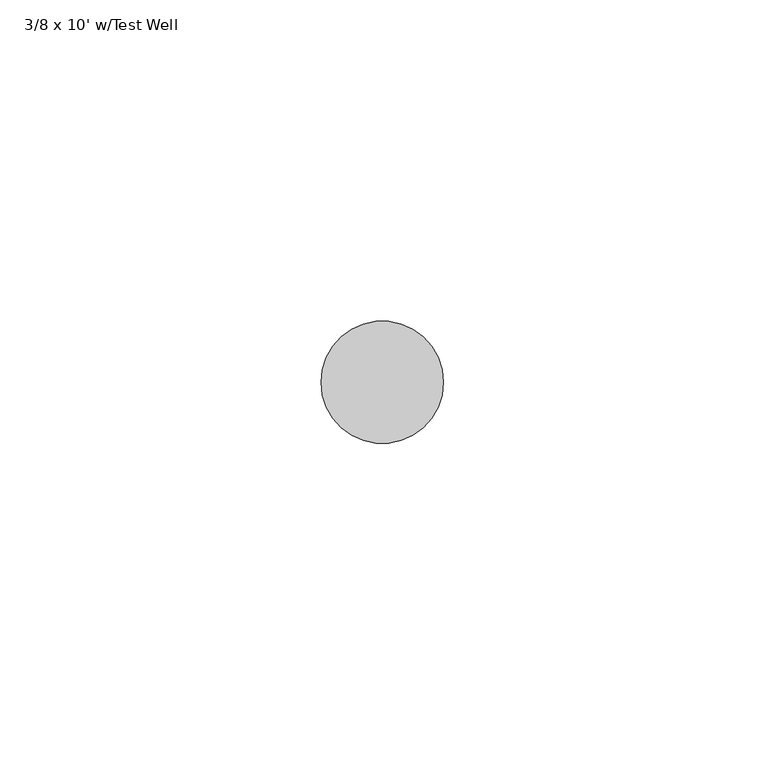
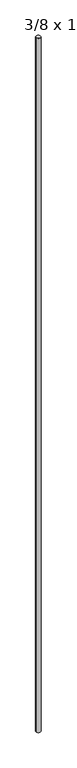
"""IFC4 building model written with IfcOpenShell, lengths in millimetres: proxy geometry, OMAHA - GroundRod_Grounding : 3/8 x 10' w/Test Well."""

import ifcopenshell
import ifcopenshell.guid

model = None  # the IFC model being written
_history = None  # IfcOwnerHistory: only IFC2X3 demands one
_inside = {}  # id of a spatial element -> (the spatial element, [elements in it])
_under = {}  # id of a project, library or spatial element -> (it, [spatial elements below it])
_declared = {}  # id of a project -> (the project, [libraries it declares])
_typed = {}  # id of a type object -> (the type object, [elements of that type])
_made_of = {}  # id of a material, layer set ... -> (it, [elements and type objects made of it])


def new_model(schema):
    """Start an empty IFC model of exactly this schema.

    Asked for "IFC4X3", IfcOpenShell would pick the latest addendum, in which some entities
    have other attributes; the version numbers below select the first issue.
    IFC2X3 requires an IfcOwnerHistory on every rooted entity: one is made here for all.
    """
    global model, _history
    if schema == "IFC4X3":
        model = ifcopenshell.file(schema_version=(4, 3, 0, 0))
    else:
        model = ifcopenshell.file(schema=schema)
    _inside.clear()
    _under.clear()
    _declared.clear()
    _typed.clear()
    _made_of.clear()
    _history = None
    if model.schema == "IFC2X3":
        org = make("IfcOrganization", Name="unknown")
        user = make(
            "IfcPersonAndOrganization",
            ThePerson=make("IfcPerson", FamilyName="unknown"),
            TheOrganization=org,
        )
        app = make(
            "IfcApplication",
            ApplicationDeveloper=org,
            Version="unknown",
            ApplicationFullName="unknown",
            ApplicationIdentifier="unknown",
        )
        _history = make(
            "IfcOwnerHistory",
            OwningUser=user,
            OwningApplication=app,
            ChangeAction="ADDED",
            CreationDate=0,
        )
    return model


def make(cls, **values):
    """One entity of the class cls with the attributes given. An attribute that is None is left unset."""
    return model.create_entity(
        cls, **{name: value for name, value in values.items() if value is not None}
    )


def rooted(cls, **values):
    """An entity with a GlobalId (a new one), such as an element, a storey or a relation."""
    return make(cls, GlobalId=ifcopenshell.guid.new(), OwnerHistory=_history, **values)


def si_unit(unit_type, name, prefix=None):
    """IfcSIUnit, for example si_unit("LENGTHUNIT", "METRE", prefix="MILLI")."""
    return make("IfcSIUnit", UnitType=unit_type, Prefix=prefix, Name=name)


def assignment(units):
    """IfcUnitAssignment: the units of a project."""
    return None if units is None else make("IfcUnitAssignment", Units=units)


def point(xyz):
    """IfcCartesianPoint."""
    return None if xyz is None else make("IfcCartesianPoint", Coordinates=xyz)


def direction(xyz):
    """IfcDirection."""
    return None if xyz is None else make("IfcDirection", DirectionRatios=xyz)


def frame(location, z_axis=None, x_axis=None):
    """IfcAxis2Placement3D, a coordinate frame: its origin and axes. An axis left out is left unset."""
    return make(
        "IfcAxis2Placement3D",
        Location=point(location),
        Axis=direction(z_axis),
        RefDirection=direction(x_axis),
    )


def frame_2d(location, x_axis=None):
    """IfcAxis2Placement2D, a coordinate frame in the plane: its origin and x axis."""
    return make(
        "IfcAxis2Placement2D", Location=point(location), RefDirection=direction(x_axis)
    )


def origin():
    """The frame at (0, 0, 0) with its axes left unset."""
    return frame((0.0, 0.0, 0.0))


def origin_2d():
    """The frame at (0, 0) in the plane with its x axis left unset."""
    return frame_2d((0.0, 0.0))


def place(relative_to, where):
    """IfcLocalPlacement: puts the frame where relative to a parent placement (None: the world)."""
    return make(
        "IfcLocalPlacement", PlacementRelTo=relative_to, RelativePlacement=where
    )


def context(
    kind, dimensions, precision=None, world=None, true_north=None, identifier=None
):
    """IfcGeometricRepresentationContext, for example the 3D "Model" context."""
    return make(
        "IfcGeometricRepresentationContext",
        ContextIdentifier=identifier,
        ContextType=kind,
        CoordinateSpaceDimension=dimensions,
        Precision=precision,
        WorldCoordinateSystem=world,
        TrueNorth=true_north,
    )


def project(units=None, contexts=None):
    """IfcProject with its units and contexts."""
    return rooted(
        "IfcProject",
        Name="project",
        RepresentationContexts=contexts,
        UnitsInContext=assignment(units),
    )


def spatial(cls, under=None, at=None, **own):
    """A site, building, storey or space (cls), placed at a placement, below another one or the project."""
    s = rooted(cls, ObjectPlacement=at, **own)
    if under is not None:
        _under.setdefault(under.id(), (under, []))[1].append(s)
    return s


def circle_curve(where, radius):
    """IfcCircle in the frame where."""
    return make("IfcCircle", Position=where, Radius=radius)


def trimmed(basis, trim1, trim2, sense, master):
    """IfcTrimmedCurve: the piece of a basis curve between two trims."""
    return make(
        "IfcTrimmedCurve",
        BasisCurve=basis,
        Trim1=trim1,
        Trim2=trim2,
        SenseAgreement=sense,
        MasterRepresentation=master,
    )


def segment(curve, same_sense, transition):
    """IfcCompositeCurveSegment."""
    return make(
        "IfcCompositeCurveSegment",
        Transition=transition,
        SameSense=same_sense,
        ParentCurve=curve,
    )


def composite_curve(segments, self_intersect=None):
    """IfcCompositeCurve: segments joined end to end."""
    return make("IfcCompositeCurve", Segments=segments, SelfIntersect=self_intersect)


def outline(outer, holes=None, kind="AREA"):
    """IfcArbitraryClosedProfileDef: a profile drawn as a closed curve; with holes, ...WithVoids."""
    if holes is None:
        return make("IfcArbitraryClosedProfileDef", ProfileType=kind, OuterCurve=outer)
    return make(
        "IfcArbitraryProfileDefWithVoids",
        ProfileType=kind,
        OuterCurve=outer,
        InnerCurves=holes,
    )


def extrude(swept, where, along, depth):
    """IfcExtrudedAreaSolid: the profile swept, set in the frame where, extruded along a direction by depth."""
    return make(
        "IfcExtrudedAreaSolid",
        SweptArea=swept,
        Position=where,
        ExtrudedDirection=direction(along),
        Depth=depth,
    )


def shape(context_of_items, identifier, shape_type, items):
    """IfcShapeRepresentation: the items that make up one representation, for example the "Body"."""
    return make(
        "IfcShapeRepresentation",
        ContextOfItems=context_of_items,
        RepresentationIdentifier=identifier,
        RepresentationType=shape_type,
        Items=items,
    )


def source(mapping_origin, context_of_items, identifier, shape_type, items):
    """IfcRepresentationMap: a shape defined once, which mapped items show again and again."""
    return make(
        "IfcRepresentationMap",
        MappingOrigin=mapping_origin,
        MappedRepresentation=shape(context_of_items, identifier, shape_type, items),
    )


def transform(
    local_origin,
    x_axis=None,
    y_axis=None,
    z_axis=None,
    scale=None,
    scale2=None,
    scale3=None,
    uniform=True,
):
    """IfcCartesianTransformationOperator3D, or its non-uniform kind. x_axis, y_axis, z_axis: its Axis1, 2, 3."""
    if uniform:
        return make(
            "IfcCartesianTransformationOperator3D",
            Axis1=direction(x_axis),
            Axis2=direction(y_axis),
            LocalOrigin=point(local_origin),
            Scale=scale,
            Axis3=direction(z_axis),
        )
    return make(
        "IfcCartesianTransformationOperator3DnonUniform",
        Axis1=direction(x_axis),
        Axis2=direction(y_axis),
        LocalOrigin=point(local_origin),
        Scale=scale,
        Axis3=direction(z_axis),
        Scale2=scale2,
        Scale3=scale3,
    )


def mapped(mapping_source, mapping_target):
    """IfcMappedItem: shows the shape of a source again, moved by a transform."""
    return make(
        "IfcMappedItem", MappingSource=mapping_source, MappingTarget=mapping_target
    )


def made_of(thing, what):
    """Note that an element or type object is made of a material, layer set ...; save() writes the relation."""
    if what is not None:
        _made_of.setdefault(what.id(), (what, []))[1].append(thing)
    return thing


def element(
    cls,
    number,
    at=None,
    inside=None,
    cuts=None,
    type_object=None,
    material=None,
    context=None,
    identifier="Body",
    shape_type=None,
    held_by="IfcProductDefinitionShape",
    body=None,
    shapes=None,
    **own,
):
    """One element of the class cls, such as IfcWall. Its Tag is "e" and its number.

    at: its placement. inside: the storey or other place that contains it. cuts: it is an
    opening in that element (IfcRelVoidsElement). A single representation is given by context,
    identifier, shape_type and body (its items); several are given by shapes. held_by: the class
    of the entity that holds the representations. save() writes the other relations.
    """
    e = rooted(cls, Tag="e%d" % number, ObjectPlacement=at, **own)
    if body is not None:
        shapes = [shape(context, identifier, shape_type, body)]
    if shapes is not None:
        e.Representation = make(held_by, Representations=shapes)
    if inside is not None:
        _inside.setdefault(inside.id(), (inside, []))[1].append(e)
    if cuts is not None:
        rooted(
            "IfcRelVoidsElement", RelatingBuildingElement=cuts, RelatedOpeningElement=e
        )
    if type_object is not None:
        _typed.setdefault(type_object.id(), (type_object, []))[1].append(e)
    return made_of(e, material)


def aggregate(whole, parts):
    """IfcRelAggregates: a whole, such as a stair, and the parts it consists of."""
    return rooted("IfcRelAggregates", RelatingObject=whole, RelatedObjects=parts)


def save(model, path):
    """Write the relations noted so far, then the file.

    IfcRelAggregates (storeys below a building ...), IfcRelContainedInSpatialStructure (elements
    in a storey), IfcRelDefinesByType, IfcRelAssociatesMaterial and IfcRelDeclares: one each for
    every whole, place, type object, material and project.
    """
    for whole, parts in _under.values():
        aggregate(whole, parts)
    for where, things in _inside.values():
        rooted(
            "IfcRelContainedInSpatialStructure",
            RelatedElements=things,
            RelatingStructure=where,
        )
    for kind, things in _typed.values():
        rooted("IfcRelDefinesByType", RelatedObjects=things, RelatingType=kind)
    for what, things in _made_of.values():
        rooted("IfcRelAssociatesMaterial", RelatedObjects=things, RelatingMaterial=what)
    for by, libraries in _declared.values():
        rooted("IfcRelDeclares", RelatingContext=by, RelatedDefinitions=libraries)
    model.write(path)


def proxy_3_8_x_10_w_test_well_fb1ef873(model_context):
    return source(origin(), model_context, "Body", "SweptSolid", [
        extrude(outline(composite_curve([segment(trimmed(circle_curve(origin_2d(), 9.525), [point((-9.525, 0.0))], [point((9.525, 0.0))], False, "CARTESIAN"), True, "CONTINUOUS"), segment(trimmed(circle_curve(origin_2d(), 9.525), [point((9.525, 0.0))], [point((-9.525, 0.0))], False, "CARTESIAN"), True, "CONTINUOUS")], self_intersect=False)), frame((0.0, 0.0, -3048.0), z_axis=(0.0, 0.0, 1.0), x_axis=(1.0, 0.0, 0.0)), (0.0, 0.0, 1.0), 3048.0),
    ])


if __name__ == "__main__":
    model = new_model("IFC4")
    model_context = context("Model", 3, world=origin())
    ifc_project = project(units=[si_unit("LENGTHUNIT", "METRE", prefix="MILLI")], contexts=[model_context])
    site = spatial("IfcSite", under=ifc_project)
    building = spatial("IfcBuilding", under=site)
    placement = place(None, origin())
    proxy_3_8_x_10_w_test_well_shape = proxy_3_8_x_10_w_test_well_fb1ef873(model_context)
    element("IfcBuildingElementProxy", 1, Name="OMAHA - GroundRod_Grounding : 3/8 x 10' w/Test Well", ObjectType="OMAHA - GroundRod_Grounding : 3/8 x 10' w/Test Well", at=placement, inside=building, context=model_context, shape_type="MappedRepresentation", body=[
        mapped(proxy_3_8_x_10_w_test_well_shape, transform((0.0, 0.0, 0.0), x_axis=(1.0, 0.0, 0.0), y_axis=(0.0, 1.0, 0.0), z_axis=(0.0, 0.0, 1.0))),
    ])
    save(model, "model.ifc")
